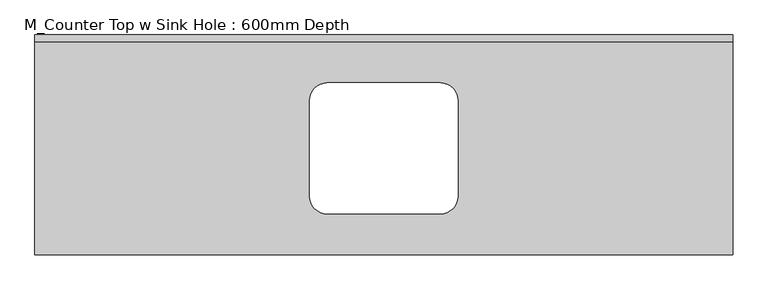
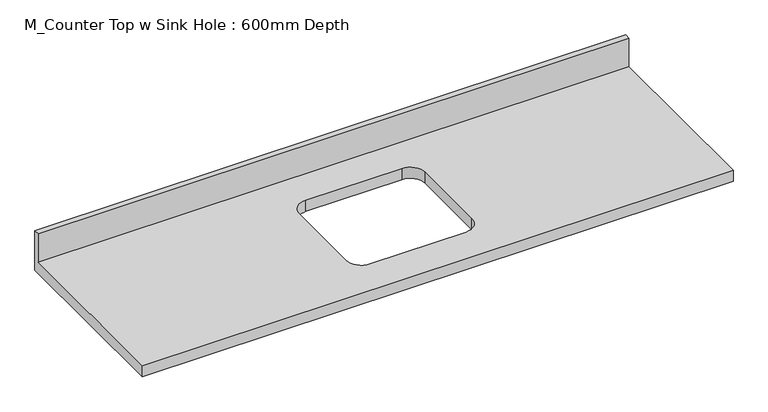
"""IFC4 building model written with IfcOpenShell, lengths in millimetres: furniture geometry, M_Counter Top w Sink Hole : 600mm Depth."""

import ifcopenshell
import ifcopenshell.guid

model = None  # the IFC model being written
_history = None  # IfcOwnerHistory: only IFC2X3 demands one
_inside = {}  # id of a spatial element -> (the spatial element, [elements in it])
_under = {}  # id of a project, library or spatial element -> (it, [spatial elements below it])
_declared = {}  # id of a project -> (the project, [libraries it declares])
_typed = {}  # id of a type object -> (the type object, [elements of that type])
_made_of = {}  # id of a material, layer set ... -> (it, [elements and type objects made of it])


def new_model(schema):
    """Start an empty IFC model of exactly this schema.

    Asked for "IFC4X3", IfcOpenShell would pick the latest addendum, in which some entities
    have other attributes; the version numbers below select the first issue.
    IFC2X3 requires an IfcOwnerHistory on every rooted entity: one is made here for all.
    """
    global model, _history
    if schema == "IFC4X3":
        model = ifcopenshell.file(schema_version=(4, 3, 0, 0))
    else:
        model = ifcopenshell.file(schema=schema)
    _inside.clear()
    _under.clear()
    _declared.clear()
    _typed.clear()
    _made_of.clear()
    _history = None
    if model.schema == "IFC2X3":
        org = make("IfcOrganization", Name="unknown")
        user = make(
            "IfcPersonAndOrganization",
            ThePerson=make("IfcPerson", FamilyName="unknown"),
            TheOrganization=org,
        )
        app = make(
            "IfcApplication",
            ApplicationDeveloper=org,
            Version="unknown",
            ApplicationFullName="unknown",
            ApplicationIdentifier="unknown",
        )
        _history = make(
            "IfcOwnerHistory",
            OwningUser=user,
            OwningApplication=app,
            ChangeAction="ADDED",
            CreationDate=0,
        )
    return model


def make(cls, **values):
    """One entity of the class cls with the attributes given. An attribute that is None is left unset."""
    return model.create_entity(
        cls, **{name: value for name, value in values.items() if value is not None}
    )


def rooted(cls, **values):
    """An entity with a GlobalId (a new one), such as an element, a storey or a relation."""
    return make(cls, GlobalId=ifcopenshell.guid.new(), OwnerHistory=_history, **values)


def si_unit(unit_type, name, prefix=None):
    """IfcSIUnit, for example si_unit("LENGTHUNIT", "METRE", prefix="MILLI")."""
    return make("IfcSIUnit", UnitType=unit_type, Prefix=prefix, Name=name)


def assignment(units):
    """IfcUnitAssignment: the units of a project."""
    return None if units is None else make("IfcUnitAssignment", Units=units)


def point(xyz):
    """IfcCartesianPoint."""
    return None if xyz is None else make("IfcCartesianPoint", Coordinates=xyz)


def direction(xyz):
    """IfcDirection."""
    return None if xyz is None else make("IfcDirection", DirectionRatios=xyz)


def frame(location, z_axis=None, x_axis=None):
    """IfcAxis2Placement3D, a coordinate frame: its origin and axes. An axis left out is left unset."""
    return make(
        "IfcAxis2Placement3D",
        Location=point(location),
        Axis=direction(z_axis),
        RefDirection=direction(x_axis),
    )


def origin():
    """The frame at (0, 0, 0) with its axes left unset."""
    return frame((0.0, 0.0, 0.0))


def place(relative_to, where):
    """IfcLocalPlacement: puts the frame where relative to a parent placement (None: the world)."""
    return make(
        "IfcLocalPlacement", PlacementRelTo=relative_to, RelativePlacement=where
    )


def context(
    kind, dimensions, precision=None, world=None, true_north=None, identifier=None
):
    """IfcGeometricRepresentationContext, for example the 3D "Model" context."""
    return make(
        "IfcGeometricRepresentationContext",
        ContextIdentifier=identifier,
        ContextType=kind,
        CoordinateSpaceDimension=dimensions,
        Precision=precision,
        WorldCoordinateSystem=world,
        TrueNorth=true_north,
    )


def project(units=None, contexts=None):
    """IfcProject with its units and contexts."""
    return rooted(
        "IfcProject",
        Name="project",
        RepresentationContexts=contexts,
        UnitsInContext=assignment(units),
    )


def spatial(cls, under=None, at=None, **own):
    """A site, building, storey or space (cls), placed at a placement, below another one or the project."""
    s = rooted(cls, ObjectPlacement=at, **own)
    if under is not None:
        _under.setdefault(under.id(), (under, []))[1].append(s)
    return s


def polyline(points):
    """IfcPolyline through the points."""
    return make("IfcPolyline", Points=[point(p) for p in points])


def circle_curve(where, radius):
    """IfcCircle in the frame where."""
    return make("IfcCircle", Position=where, Radius=radius)


def shape(context_of_items, identifier, shape_type, items):
    """IfcShapeRepresentation: the items that make up one representation, for example the "Body"."""
    return make(
        "IfcShapeRepresentation",
        ContextOfItems=context_of_items,
        RepresentationIdentifier=identifier,
        RepresentationType=shape_type,
        Items=items,
    )


def source(mapping_origin, context_of_items, identifier, shape_type, items):
    """IfcRepresentationMap: a shape defined once, which mapped items show again and again."""
    return make(
        "IfcRepresentationMap",
        MappingOrigin=mapping_origin,
        MappedRepresentation=shape(context_of_items, identifier, shape_type, items),
    )


def transform(
    local_origin,
    x_axis=None,
    y_axis=None,
    z_axis=None,
    scale=None,
    scale2=None,
    scale3=None,
    uniform=True,
):
    """IfcCartesianTransformationOperator3D, or its non-uniform kind. x_axis, y_axis, z_axis: its Axis1, 2, 3."""
    if uniform:
        return make(
            "IfcCartesianTransformationOperator3D",
            Axis1=direction(x_axis),
            Axis2=direction(y_axis),
            LocalOrigin=point(local_origin),
            Scale=scale,
            Axis3=direction(z_axis),
        )
    return make(
        "IfcCartesianTransformationOperator3DnonUniform",
        Axis1=direction(x_axis),
        Axis2=direction(y_axis),
        LocalOrigin=point(local_origin),
        Scale=scale,
        Axis3=direction(z_axis),
        Scale2=scale2,
        Scale3=scale3,
    )


def mapped(mapping_source, mapping_target):
    """IfcMappedItem: shows the shape of a source again, moved by a transform."""
    return make(
        "IfcMappedItem", MappingSource=mapping_source, MappingTarget=mapping_target
    )


def made_of(thing, what):
    """Note that an element or type object is made of a material, layer set ...; save() writes the relation."""
    if what is not None:
        _made_of.setdefault(what.id(), (what, []))[1].append(thing)
    return thing


def element(
    cls,
    number,
    at=None,
    inside=None,
    cuts=None,
    type_object=None,
    material=None,
    context=None,
    identifier="Body",
    shape_type=None,
    held_by="IfcProductDefinitionShape",
    body=None,
    shapes=None,
    **own,
):
    """One element of the class cls, such as IfcWall. Its Tag is "e" and its number.

    at: its placement. inside: the storey or other place that contains it. cuts: it is an
    opening in that element (IfcRelVoidsElement). A single representation is given by context,
    identifier, shape_type and body (its items); several are given by shapes. held_by: the class
    of the entity that holds the representations. save() writes the other relations.
    """
    e = rooted(cls, Tag="e%d" % number, ObjectPlacement=at, **own)
    if body is not None:
        shapes = [shape(context, identifier, shape_type, body)]
    if shapes is not None:
        e.Representation = make(held_by, Representations=shapes)
    if inside is not None:
        _inside.setdefault(inside.id(), (inside, []))[1].append(e)
    if cuts is not None:
        rooted(
            "IfcRelVoidsElement", RelatingBuildingElement=cuts, RelatedOpeningElement=e
        )
    if type_object is not None:
        _typed.setdefault(type_object.id(), (type_object, []))[1].append(e)
    return made_of(e, material)


def aggregate(whole, parts):
    """IfcRelAggregates: a whole, such as a stair, and the parts it consists of."""
    return rooted("IfcRelAggregates", RelatingObject=whole, RelatedObjects=parts)


def save(model, path):
    """Write the relations noted so far, then the file.

    IfcRelAggregates (storeys below a building ...), IfcRelContainedInSpatialStructure (elements
    in a storey), IfcRelDefinesByType, IfcRelAssociatesMaterial and IfcRelDeclares: one each for
    every whole, place, type object, material and project.
    """
    for whole, parts in _under.values():
        aggregate(whole, parts)
    for where, things in _inside.values():
        rooted(
            "IfcRelContainedInSpatialStructure",
            RelatedElements=things,
            RelatingStructure=where,
        )
    for kind, things in _typed.values():
        rooted("IfcRelDefinesByType", RelatedObjects=things, RelatingType=kind)
    for what, things in _made_of.values():
        rooted("IfcRelAssociatesMaterial", RelatedObjects=things, RelatingMaterial=what)
    for by, libraries in _declared.values():
        rooted("IfcRelDeclares", RelatingContext=by, RelatedDefinitions=libraries)
    model.write(path)


def plane_surface(at):
    """IfcPlane: the flat surface through the origin of the frame at, square to its z axis."""
    return make("IfcPlane", Position=at)


def revolved_surface(curve, axis_point, axis_direction):
    """IfcSurfaceOfRevolution: the curve turned about the line through axis_point along axis_direction."""
    return make(
        "IfcSurfaceOfRevolution",
        SweptCurve=make("IfcArbitraryOpenProfileDef", ProfileType="CURVE", Curve=curve),
        AxisPosition=make("IfcAxis1Placement", Location=point(axis_point), Axis=direction(axis_direction)),
    )


def advanced_brep(points, edges, surfaces, faces):
    """IfcAdvancedBrep: a solid bounded by faces that lie on surfaces and meet in shared edges.

    An edge is (start, end): straight between two places in points (the first is 0);
    or (start, end, curve); or (start, end, curve, False) where it runs against its curve.
    A face is (place in surfaces, loops), or (place, loops, False) where it looks against
    its surface's normal. A loop lists edges by number (the first is 1), with a minus sign
    where the edge is run from its end to its start. The first loop is the outer one.
    """
    corners = [point(p) for p in points]
    vertices = [make("IfcVertexPoint", VertexGeometry=c) for c in corners]
    made = []
    for start, end, *more in edges:
        made.append(
            make(
                "IfcEdgeCurve",
                EdgeStart=vertices[start],
                EdgeEnd=vertices[end],
                EdgeGeometry=more[0] if more else make("IfcPolyline", Points=[corners[start], corners[end]]),
                SameSense=more[1] if len(more) > 1 else True,
            )
        )
    hull = []
    for where, loops, *sense in faces:
        bounds = []
        for j, loop in enumerate(loops):
            ring = [make("IfcOrientedEdge", EdgeElement=made[abs(k) - 1], Orientation=k > 0) for k in loop]
            bounds.append(
                make(
                    "IfcFaceOuterBound" if j == 0 else "IfcFaceBound",
                    Bound=make("IfcEdgeLoop", EdgeList=ring),
                    Orientation=True,
                )
            )
        hull.append(make("IfcAdvancedFace", Bounds=bounds, FaceSurface=surfaces[where], SameSense=sense[0] if sense else True))
    return make("IfcAdvancedBrep", Outer=make("IfcClosedShell", CfsFaces=hull))


def m_counter_top_w_sink_hole_600mm_depth_8ccae52a(model_context):
    return source(origin(), model_context, "Body", "AdvancedBrep", [
        advanced_brep(
        [(-1200.4622951, -630.0, 900.0), (799.5377049, -630.0, 900.0), (799.5377049, -19.05, 900.0), (-1200.4622951, -19.05, 900.0), (-362.3622951, -137.3, 900.0), (-38.5622951, -137.3, 900.0), (12.2377049, -188.1, 900.0), (12.2377049, -461.9, 900.0), (-38.5622951, -512.7, 900.0), (-362.3622951, -512.7, 900.0), (-413.1622951, -461.9, 900.0), (-413.1622951, -188.1, 900.0), (799.5377049, 0.0, 860.0), (799.5377049, -630.0, 860.0), (-1200.4622951, -630.0, 860.0), (-1200.4622951, 0.0, 860.0), (-38.5622951, -137.3, 860.0), (-362.3622951, -137.3, 860.0), (-413.1622951, -188.1, 860.0), (-413.1622951, -461.9, 860.0), (-362.3622951, -512.7, 860.0), (-38.5622951, -512.7, 860.0), (12.2377049, -461.9, 860.0), (12.2377049, -188.1, 860.0), (-1200.4622951, 0.0, 1001.6), (799.5377049, 0.0, 1001.6), (-1200.4622951, -19.05, 1001.6), (799.5377049, -19.05, 1001.6)],
        [
            (0, 1),
            (1, 2),
            (2, 3),
            (3, 0),
            (4, 5),
            (5, 6, circle_curve(frame((-38.5622951, -188.1, 900.0), z_axis=(0.0, 0.0, -1.0), x_axis=(1.0, 0.0, 0.0)), 50.8)),
            (6, 7),
            (7, 8, circle_curve(frame((-38.5622951, -461.9, 900.0), z_axis=(0.0, 0.0, -1.0), x_axis=(1.0, 0.0, 0.0)), 50.8)),
            (8, 9),
            (9, 10, circle_curve(frame((-362.3622951, -461.9, 900.0), z_axis=(0.0, 0.0, -1.0), x_axis=(1.0, 0.0, 0.0)), 50.8)),
            (10, 11),
            (11, 4, circle_curve(frame((-362.3622951, -188.1, 900.0), z_axis=(0.0, 0.0, -1.0), x_axis=(1.0, 0.0, 0.0)), 50.8)),
            (12, 13),
            (13, 14),
            (14, 15),
            (15, 12),
            (16, 17),
            (17, 18, circle_curve(frame((-362.3622951, -188.1, 860.0), z_axis=(0.0, 0.0, 1.0), x_axis=(1.0, 0.0, 0.0)), 50.8)),
            (18, 19),
            (19, 20, circle_curve(frame((-362.3622951, -461.9, 860.0), z_axis=(0.0, 0.0, 1.0), x_axis=(1.0, 0.0, 0.0)), 50.8)),
            (20, 21),
            (21, 22, circle_curve(frame((-38.5622951, -461.9, 860.0), z_axis=(0.0, 0.0, 1.0), x_axis=(1.0, 0.0, 0.0)), 50.8)),
            (22, 23),
            (23, 16, circle_curve(frame((-38.5622951, -188.1, 860.0), z_axis=(0.0, 0.0, 1.0), x_axis=(1.0, 0.0, 0.0)), 50.8)),
            (15, 24),
            (24, 25),
            (25, 12),
            (14, 0),
            (3, 26),
            (26, 24),
            (13, 1),
            (25, 27),
            (27, 2),
            (26, 27),
            (4, 17),
            (16, 5),
            (11, 18),
            (10, 19),
            (9, 20),
            (8, 21),
            (7, 22),
            (6, 23),
        ],
        [
            plane_surface(frame((-1200.4622951, 0.0, 900.0), z_axis=(0.0, 0.0, 1.0), x_axis=(-1.0, 0.0, 0.0))),
            plane_surface(frame((-1200.4622951, 0.0, 860.0), z_axis=(0.0, 0.0, -1.0), x_axis=(1.0, 0.0, 0.0))),
            plane_surface(frame((799.5377049, 0.0, 900.0), z_axis=(0.0, 1.0, 0.0), x_axis=(0.0, 0.0, -1.0))),
            plane_surface(frame((-1200.4622951, 0.0, 900.0), z_axis=(-1.0, 0.0, 0.0), x_axis=(0.0, 0.0, -1.0))),
            plane_surface(frame((-1200.4622951, -630.0, 900.0), z_axis=(0.0, -1.0, 0.0), x_axis=(0.0, 0.0, -1.0))),
            plane_surface(frame((799.5377049, -630.0, 900.0), z_axis=(1.0, 0.0, 0.0), x_axis=(0.0, 0.0, -1.0))),
            plane_surface(frame((-1200.4622951, 0.0, 1001.6), z_axis=(0.0, 0.0, 1.0), x_axis=(0.0, -1.0, 0.0))),
            plane_surface(frame((-1200.4622951, -19.05, 1001.6), z_axis=(0.0, -1.0, 0.0), x_axis=(0.0, 0.0, -1.0))),
            plane_surface(frame((-38.5622951, -137.3, 900.0), z_axis=(0.0, -1.0, 0.0), x_axis=(0.0, 0.0, -1.0))),
            revolved_surface(polyline([(-311.5622951, -188.1, 900.0), (-311.5622951, -188.1, 860.0)]), (-362.3622951, -188.1, 860.0), (0.0, 0.0, 1.0)),
            plane_surface(frame((-413.1622951, -188.1, 900.0), z_axis=(1.0, 0.0, 0.0), x_axis=(0.0, 0.0, -1.0))),
            revolved_surface(polyline([(-311.5622951, -461.9, 900.0), (-311.5622951, -461.9, 860.0)]), (-362.3622951, -461.9, 860.0), (0.0, 0.0, 1.0)),
            plane_surface(frame((-362.3622951, -512.7, 900.0), z_axis=(0.0, 1.0, 0.0), x_axis=(0.0, 0.0, -1.0))),
            revolved_surface(polyline([(12.237704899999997, -461.9, 900.0), (12.237704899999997, -461.9, 860.0)]), (-38.5622951, -461.9, 860.0), (0.0, 0.0, 1.0)),
            plane_surface(frame((12.2377049, -461.9, 900.0), z_axis=(-1.0, 0.0, 0.0), x_axis=(0.0, 0.0, -1.0))),
            revolved_surface(polyline([(12.237704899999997, -188.1, 900.0), (12.237704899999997, -188.1, 860.0)]), (-38.5622951, -188.1, 860.0), (0.0, 0.0, 1.0)),
        ],
        [
            (0, [[1, 2, 3, 4], [5, 6, 7, 8, 9, 10, 11, 12]]),
            (1, [[13, 14, 15, 16], [17, 18, 19, 20, 21, 22, 23, 24]]),
            (2, [[-16, 25, 26, 27]]),
            (3, [[-15, 28, -4, 29, 30, -25]]),
            (4, [[-1, -28, -14, 31]]),
            (5, [[-13, -27, 32, 33, -2, -31]]),
            (6, [[-30, 34, -32, -26]]),
            (7, [[-34, -29, -3, -33]]),
            (8, [[35, -17, 36, -5]]),
            (9, [[-35, -12, 37, -18]]),
            (10, [[-37, -11, 38, -19]]),
            (11, [[-38, -10, 39, -20]]),
            (12, [[-39, -9, 40, -21]]),
            (13, [[-40, -8, 41, -22]]),
            (14, [[-41, -7, 42, -23]]),
            (15, [[-36, -24, -42, -6]]),
        ],
    ),
    ])


if __name__ == "__main__":
    model = new_model("IFC4")
    model_context = context("Model", 3, world=origin())
    ifc_project = project(units=[si_unit("LENGTHUNIT", "METRE", prefix="MILLI")], contexts=[model_context])
    site = spatial("IfcSite", under=ifc_project)
    building = spatial("IfcBuilding", under=site)
    placement = place(None, origin())
    m_counter_top_w_sink_hole_600mm_depth_shape = m_counter_top_w_sink_hole_600mm_depth_8ccae52a(model_context)
    element("IfcFurniture", 1, ObjectType="M_Counter Top w Sink Hole : 600mm Depth", at=placement, inside=building, context=model_context, shape_type="MappedRepresentation", body=[
        mapped(m_counter_top_w_sink_hole_600mm_depth_shape, transform((0.0, 0.0, 0.0), x_axis=(1.0, 0.0, 0.0), y_axis=(0.0, 1.0, 0.0), z_axis=(0.0, 0.0, 1.0))),
    ])
    save(model, "model.ifc")
